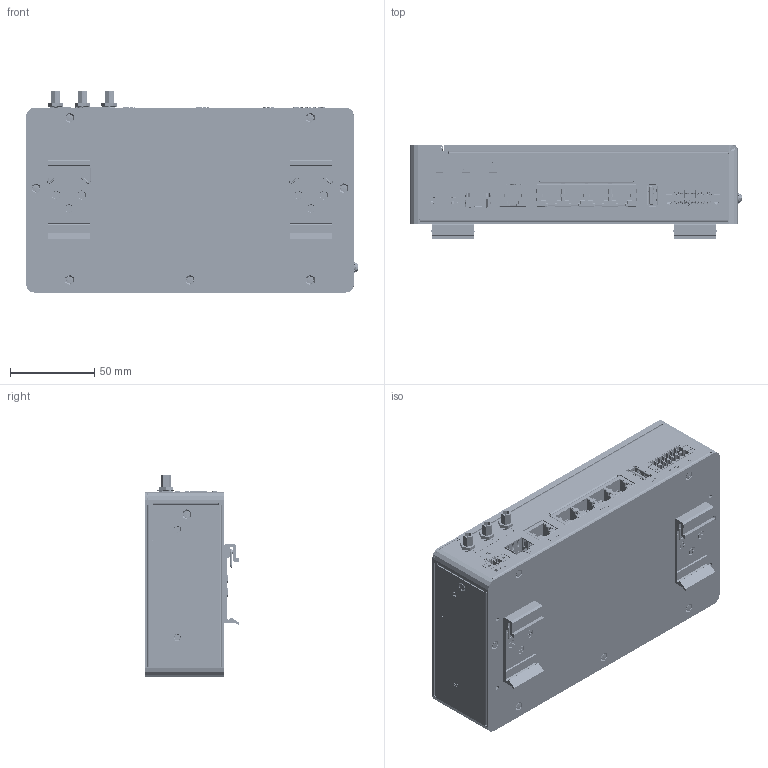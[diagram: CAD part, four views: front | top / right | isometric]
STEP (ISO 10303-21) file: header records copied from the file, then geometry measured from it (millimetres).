
FILE_DESCRIPTION (( 'STEP AP203' ), '1' );
FILE_NAME ('VRM-2021-58-1_ICR-4401W with DIN holders.STEP', '2021-06-03T15:21:00', ( '' ), ( '' ), 'SwSTEP 2.0', 'SolidWorks 2021', '' );
FILE_SCHEMA (( 'CONFIG_CONTROL_DESIGN' ));
Length unit declared in the file: millimetre
Products named in the file (52): lightpipe tray_ICR-4000; VRM-2021-58-1_ICR-4401W with DIN holders; Tray_ICR-4000; 1930000741-11_默_; Nameplate_ICR-4401_4; 1930001782_S_S D=5 FH=120+M2.5X5L ST BZn_默_; sim cover_ICR-4000_ICR-4401; Bottom cover_ICR-4000; BB-DIN-ICR32; 1935130610_默_; 1930000741-11_默__2; Open CASCADE STEP translator 6.8 1.2.1.1.step.IGS_2; 19310305C0_默_; Back cover_ICR-4000_ICR-4401; 1930003479_默_; Thermal pad 44x29 t=2mm;K6; 1700004434._默__3; 1930004041-11_默_; Nameplate_ICR-4401_3; 1930008006_M3 TORX Screw; 1700004434._默_; 1930004041-11_默__2; 1700004434._默__2; Pero_BB-DIN-ICR32; Nameplate_ICR-4401; lightpipe assembly_ICR-4000; Mini pccie Heat sink_ICR-4000; Nameplate_ICR-4401_7; 1930005199_默_; Thermal pad 14x9 T=2.5mm,K=6; Nameplate_ICR-4401_5; Thermal pad 17x17 t=1.5mm;k6; Top Cover_ICR-4000; 1700004434._默__4; ADVANTECH Label_ICR-4000; 1990033157N000_Thermal pad46x30,T=1.5 k4; led lightpipe; Nameplate_ICR-4401_6; 1930000741-11_默__3; CPU Heat sink_ICR-4000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
Assembly tree (86 placements, depth 3):
  VRM-2021-58-1_ICR-4401W with DIN holders
    Top Cover_ICR-4000
    CPU Heat sink_ICR-4000
    Mini pccie Heat sink_ICR-4000
    Front cover_ICR-4000_ICR-4401W
    Back cover_ICR-4000_ICR-4401
    Bottom cover_ICR-4000
    sim cover_ICR-4000_ICR-4401
    1930001782_S_S D=5 FH=120+M2.5X5L ST BZn_默_
    Tray_ICR-4000
    1700004434._默_  x3
      1700004434._默__2
      1700004434._默__4
      1700004434._默_
      1700004434._默__3
    lightpipe assembly_ICR-4000
      led lightpipe
      lightpipe tray_ICR-4000
    ADVANTECH Label_ICR-4000
    1930003479_默_  x10
    1930005199_默_  x2
    1930000741-11_默_  x4
      1930000741-11_默_
      1930000741-11_默__3
      1930000741-11_默__2
    1930008006_M3 TORX Screw  x9
    1930004041-11_默_  x6
      1930004041-11_默_
      1930004041-11_默__3
      1930004041-11_默__2
    Thermal pad 14x9 T=2.5mm,K=6  x2
    Thermal pad 17x17 t=1.5mm;k6
    Thermal pad 44x29 t=2mm;K6
    1990033157N000_Thermal pad46x30,T=1.5 k4
    Nameplate_ICR-4401
      Nameplate_ICR-4401
      Nameplate_ICR-4401_5
      Nameplate_ICR-4401_7
      Nameplate_ICR-4401_3
      Nameplate_ICR-4401_2
      Nameplate_ICR-4401_4
      Nameplate_ICR-4401_6
    1935130610_默_
      1935130610_默_
      1935130610_默__2
    B-ICR44xx-4.a_3D-2021-02-05_ver2
    Open CASCADE STEP translator 6.8 1.2.1.1.step.IGS_2
    19310305C0_默_  x6
    BB-DIN-ICR32  x2
      Profil_BB-DIN-ICR32
      kolik_BB-DIN-ICR32
      Pero_BB-DIN-ICR32
Bounding box: 197.46 x 56.25 x 119.7 mm (x, y, z)
Topology: 102 solids, 2179 shells, 13198 faces, 47679 edges, 36360 vertices
Faces by surface type: plane 9969, cylinder 2337, bspline 614, cone 207, torus 53, sphere 18
Entity records: 510422 total; most frequent: CARTESIAN_POINT 135875, DIRECTION 70419, ORIENTED_EDGE 67115, EDGE_CURVE 45076, LINE 36149, VECTOR 36149, VERTEX_POINT 34700, AXIS2_PLACEMENT_3D 17135
